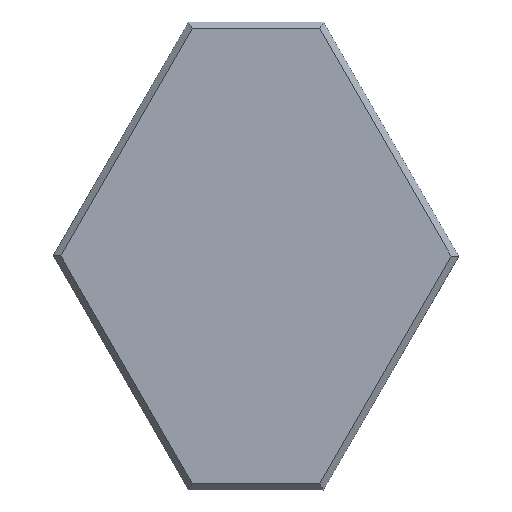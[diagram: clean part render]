
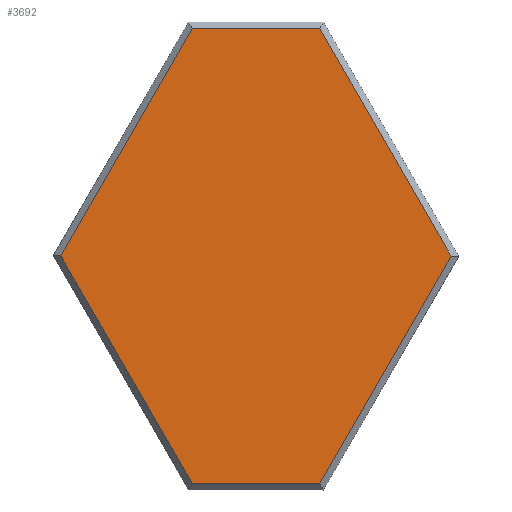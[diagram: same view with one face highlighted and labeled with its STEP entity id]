
A CAD part, front view. The second image highlights one B-rep face of the part: STEP entity #3692.
In plain terms, the highlighted planar face has unit normal (0, -1, 0) as drawn and (0, 0, 1) by its records, which use the part's own axes.
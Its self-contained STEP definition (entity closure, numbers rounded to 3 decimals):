
#136 = VERTEX_POINT ( 'NONE', #3197 ) ;
#150 = DIRECTION ( 'NONE',  ( 0., 0., 1. ) ) ;
#208 = CARTESIAN_POINT ( 'NONE',  ( 95.229, 340., 20. ) ) ;
#271 = DIRECTION ( 'NONE',  ( -1., 0., 0. ) ) ;
#414 = ORIENTED_EDGE ( 'NONE', *, *, #1040, .T. ) ;
#463 = AXIS2_PLACEMENT_3D ( 'NONE', #1394, #150, #1078 ) ;
#508 = DIRECTION ( 'NONE',  ( 1., 0., 0. ) ) ;
#518 = ORIENTED_EDGE ( 'NONE', *, *, #637, .T. ) ;
#552 = DIRECTION ( 'NONE',  ( 0.5, 0.866, 0. ) ) ;
#637 = EDGE_CURVE ( 'NONE', #1013, #3741, #3516, .T. ) ;
#654 = CARTESIAN_POINT ( 'NONE',  ( -291.7, 0., 20. ) ) ;
#995 = ORIENTED_EDGE ( 'NONE', *, *, #2497, .T. ) ;
#1013 = VERTEX_POINT ( 'NONE', #208 ) ;
#1036 = LINE ( 'NONE', #2578, #2145 ) ;
#1040 = EDGE_CURVE ( 'NONE', #136, #3070, #2614, .T. ) ;
#1078 = DIRECTION ( 'NONE',  ( 1., 0., 0. ) ) ;
#1168 = CARTESIAN_POINT ( 'NONE',  ( 0., -340., 20. ) ) ;
#1301 = EDGE_CURVE ( 'NONE', #3074, #136, #2121, .T. ) ;
#1375 = VECTOR ( 'NONE', #271, 1000. ) ;
#1394 = CARTESIAN_POINT ( 'NONE',  ( 0., 0., 20. ) ) ;
#1577 = DIRECTION ( 'NONE',  ( 0.5, -0.866, 0. ) ) ;
#1685 = CARTESIAN_POINT ( 'NONE',  ( 218.679, -126.365, 20. ) ) ;
#1687 = VECTOR ( 'NONE', #1577, 1000. ) ;
#1727 = CARTESIAN_POINT ( 'NONE',  ( -95.229, 340., 20. ) ) ;
#1916 = DIRECTION ( 'NONE',  ( -0.5, -0.866, 0. ) ) ;
#2121 = LINE ( 'NONE', #3025, #1687 ) ;
#2145 = VECTOR ( 'NONE', #1916, 1000. ) ;
#2181 = EDGE_CURVE ( 'NONE', #3070, #2781, #2263, .T. ) ;
#2214 = CARTESIAN_POINT ( 'NONE',  ( 291.7, 0., 20. ) ) ;
#2263 = LINE ( 'NONE', #1685, #3837 ) ;
#2371 = ORIENTED_EDGE ( 'NONE', *, *, #1301, .T. ) ;
#2497 = EDGE_CURVE ( 'NONE', #2781, #1013, #3586, .T. ) ;
#2578 = CARTESIAN_POINT ( 'NONE',  ( -218.679, 126.365, 20. ) ) ;
#2614 = LINE ( 'NONE', #1168, #3612 ) ;
#2781 = VERTEX_POINT ( 'NONE', #2214 ) ;
#2812 = PLANE ( 'NONE',  #463 ) ;
#2900 = EDGE_LOOP ( 'NONE', ( #414, #3786, #995, #518, #3190, #2371 ) ) ;
#2988 = DIRECTION ( 'NONE',  ( -0.5, 0.866, 0. ) ) ;
#3025 = CARTESIAN_POINT ( 'NONE',  ( -218.679, -126.365, 20. ) ) ;
#3070 = VERTEX_POINT ( 'NONE', #3665 ) ;
#3074 = VERTEX_POINT ( 'NONE', #654 ) ;
#3107 = VECTOR ( 'NONE', #2988, 1000. ) ;
#3146 = FACE_OUTER_BOUND ( 'NONE', #2900, .T. ) ;
#3190 = ORIENTED_EDGE ( 'NONE', *, *, #3666, .T. ) ;
#3197 = CARTESIAN_POINT ( 'NONE',  ( -95.229, -340., 20. ) ) ;
#3516 = LINE ( 'NONE', #3569, #1375 ) ;
#3569 = CARTESIAN_POINT ( 'NONE',  ( 0., 340., 20. ) ) ;
#3586 = LINE ( 'NONE', #3813, #3107 ) ;
#3612 = VECTOR ( 'NONE', #508, 1000. ) ;
#3665 = CARTESIAN_POINT ( 'NONE',  ( 95.229, -340., 20. ) ) ;
#3666 = EDGE_CURVE ( 'NONE', #3741, #3074, #1036, .T. ) ;
#3692 = ADVANCED_FACE ( 'NONE', ( #3146 ), #2812, .T. ) ;
#3741 = VERTEX_POINT ( 'NONE', #1727 ) ;
#3786 = ORIENTED_EDGE ( 'NONE', *, *, #2181, .T. ) ;
#3813 = CARTESIAN_POINT ( 'NONE',  ( 218.679, 126.365, 20. ) ) ;
#3837 = VECTOR ( 'NONE', #552, 1000. ) ;
